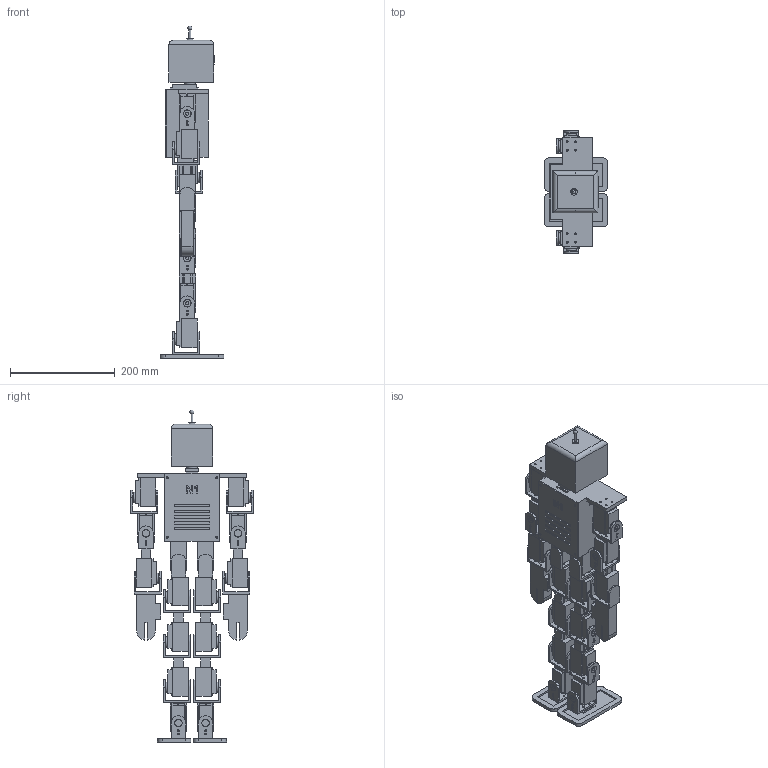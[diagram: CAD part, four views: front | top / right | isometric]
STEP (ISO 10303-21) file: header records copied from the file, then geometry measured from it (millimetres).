
FILE_DESCRIPTION(('FreeCAD Model'),'2;1');
FILE_NAME('Open CASCADE Shape Model','2026-11-08T23:31:29',('FreeCAD'),( 'FreeCAD'),'Open CASCADE STEP processor 7.8','FreeCAD','Unknown');
FILE_SCHEMA(('AUTOMOTIVE_DESIGN { 1 0 10303 214 1 1 1 1 }'));
Length unit declared in the file: millimetre
Products named in the file (1): Open CASCADE STEP translator 7.8 15
Bounding box: 122 x 234 x 634.9 mm (x, y, z)
Volume: 1951157.5 mm3; surface area: 780369.8 mm2
Topology: 81 solids, 81 shells, 1773 faces, 4404 edges, 2967 vertices
Faces by surface type: plane 1219, cylinder 550, extrusion 3, sphere 1
Full cylindrical faces by diameter (mm): 2 x34, 2.5 x122, 3 x34, 3.4 x34, 3.5 x84, 3.6 x1, 4.4 x4, 5.9 x17, 8 x16, 8.4 x16, 9 x2, 12.6 x1, 14 x17, 14.5 x17, 20 x17
Entity records: 53689 total; most frequent: DIRECTION 9207, CARTESIAN_POINT 9201, ORIENTED_EDGE 8806, EDGE_CURVE 4403, VECTOR 3135, LINE 3132, AXIS2_PLACEMENT_3D 3036, VERTEX_POINT 2967
